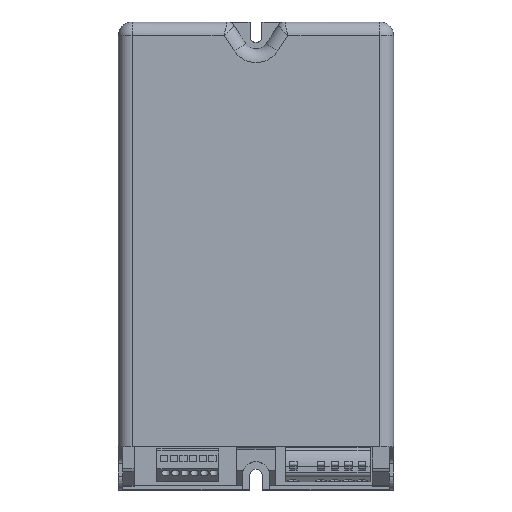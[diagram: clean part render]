
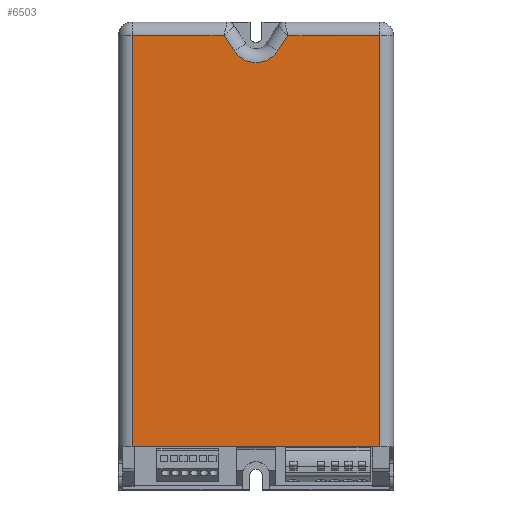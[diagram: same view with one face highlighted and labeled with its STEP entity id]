
A CAD part, top view. The second image highlights one B-rep face of the part: STEP entity #6503.
In plain terms, the highlighted planar face has unit normal (0, 0, 1).
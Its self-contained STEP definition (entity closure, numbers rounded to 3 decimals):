
#132=DIRECTION('',(0.,-1.,0.));
#133=VECTOR('',#132,149.4);
#134=CARTESIAN_POINT('',(45.,159.75,40.));
#135=LINE('',#134,#133);
#139=DIRECTION('',(1.,0.,0.));
#140=VECTOR('',#139,90.);
#141=CARTESIAN_POINT('',(-45.,10.35,40.));
#142=LINE('',#141,#140);
#146=DIRECTION('',(0.,1.,0.));
#147=VECTOR('',#146,149.4);
#148=CARTESIAN_POINT('',(-45.,10.35,40.));
#149=LINE('',#148,#147);
#153=DIRECTION('',(-1.,0.,0.));
#154=VECTOR('',#153,33.422);
#155=CARTESIAN_POINT('',(-11.578,159.75,40.));
#156=LINE('',#155,#154);
#160=DIRECTION('',(-0.554,0.832,0.));
#161=VECTOR('',#160,6.623);
#162=CARTESIAN_POINT('',(-7.908,154.236,40.));
#163=LINE('',#162,#161);
#167=CARTESIAN_POINT('',(0.,159.5,40.));
#168=DIRECTION('',(0.,0.,-1.));
#169=DIRECTION('',(0.832,-0.554,0.));
#170=AXIS2_PLACEMENT_3D('',#167,#168,#169);
#175=DIRECTION('',(-0.554,-0.832,0.));
#176=VECTOR('',#175,6.623);
#177=CARTESIAN_POINT('',(11.578,159.75,40.));
#178=LINE('',#177,#176);
#182=DIRECTION('',(-1.,0.,0.));
#183=VECTOR('',#182,33.422);
#184=CARTESIAN_POINT('',(45.,159.75,40.));
#185=LINE('',#184,#183);
#5645=CARTESIAN_POINT('',(45.,10.35,40.));
#5647=VERTEX_POINT('',#5645);
#5648=CARTESIAN_POINT('',(45.,159.75,40.));
#5649=VERTEX_POINT('',#5648);
#5652=CARTESIAN_POINT('',(-45.,10.35,40.));
#5653=CARTESIAN_POINT('',(-45.,159.75,40.));
#5654=VERTEX_POINT('',#5652);
#5655=VERTEX_POINT('',#5653);
#5664=CARTESIAN_POINT('',(11.578,159.75,40.));
#5665=VERTEX_POINT('',#5664);
#5676=CARTESIAN_POINT('',(-11.578,159.75,40.));
#5677=VERTEX_POINT('',#5676);
#5686=CARTESIAN_POINT('',(7.908,154.236,40.));
#5687=VERTEX_POINT('',#5686);
#5692=CARTESIAN_POINT('',(-7.908,154.236,40.));
#5693=VERTEX_POINT('',#5692);
#6481=CARTESIAN_POINT('',(-50.,164.75,40.));
#6482=DIRECTION('',(0.,0.,1.));
#6483=DIRECTION('',(0.,-1.,0.));
#6484=AXIS2_PLACEMENT_3D('',#6481,#6482,#6483);
#6485=PLANE('',#6484);
#6487=ORIENTED_EDGE('',*,*,#6486,.T.);
#6489=ORIENTED_EDGE('',*,*,#6488,.F.);
#6490=ORIENTED_EDGE('',*,*,#6471,.T.);
#6492=ORIENTED_EDGE('',*,*,#6491,.F.);
#6494=ORIENTED_EDGE('',*,*,#6493,.F.);
#6496=ORIENTED_EDGE('',*,*,#6495,.F.);
#6498=ORIENTED_EDGE('',*,*,#6497,.F.);
#6500=ORIENTED_EDGE('',*,*,#6499,.F.);
#6501=EDGE_LOOP('',(#6487,#6489,#6490,#6492,#6494,#6496,#6498,#6500));
#6502=FACE_OUTER_BOUND('',#6501,.F.);
#171=CIRCLE('',#170,9.5);
#6471=EDGE_CURVE('',#5654,#5655,#149,.T.);
#6486=EDGE_CURVE('',#5649,#5647,#135,.T.);
#6488=EDGE_CURVE('',#5654,#5647,#142,.T.);
#6491=EDGE_CURVE('',#5677,#5655,#156,.T.);
#6493=EDGE_CURVE('',#5693,#5677,#163,.T.);
#6495=EDGE_CURVE('',#5687,#5693,#171,.T.);
#6497=EDGE_CURVE('',#5665,#5687,#178,.T.);
#6499=EDGE_CURVE('',#5649,#5665,#185,.T.);
#6503=ADVANCED_FACE('',(#6502),#6485,.T.);
